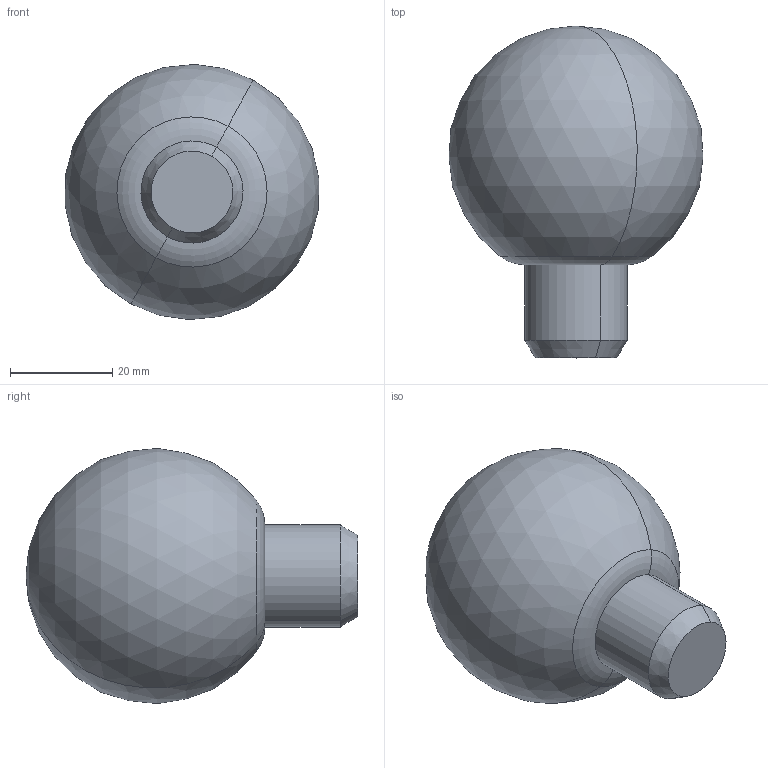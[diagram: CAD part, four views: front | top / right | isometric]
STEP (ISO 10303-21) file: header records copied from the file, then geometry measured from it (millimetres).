
FILE_DESCRIPTION(('CATIA V5 STEP Exchange'),'2;1');
FILE_NAME('E:\Etudes_avions\Sites_web\Apprendre_la_CAO\Sujets\Lampe bureau\Ampoule.stp','2017-08-03T16:23:05+00:00',('none'),('none'),'CATIA Version 5 Release 21 GA (IN-10)','CATIA V5 STEP AP203','none');
FILE_SCHEMA(('CONFIG_CONTROL_DESIGN'));
Length unit declared in the file: millimetre
Products named in the file (1): Ampoule
Bounding box: 49.71 x 65 x 49.97 mm (x, y, z)
Volume: 70142.7 mm3; surface area: 8852.2 mm2
Topology: 1 solids, 1 shells, 9 faces, 18 edges, 9 vertices
Faces by surface type: sphere 2, torus 2, cylinder 2, cone 2, plane 1
Entity records: 232 total; most frequent: ORIENTED_EDGE 32, CARTESIAN_POINT 31, DIRECTION 26, AXIS2_PLACEMENT_3D 18, EDGE_CURVE 16, CIRCLE 12, ADVANCED_FACE 9, EDGE_LOOP 9
